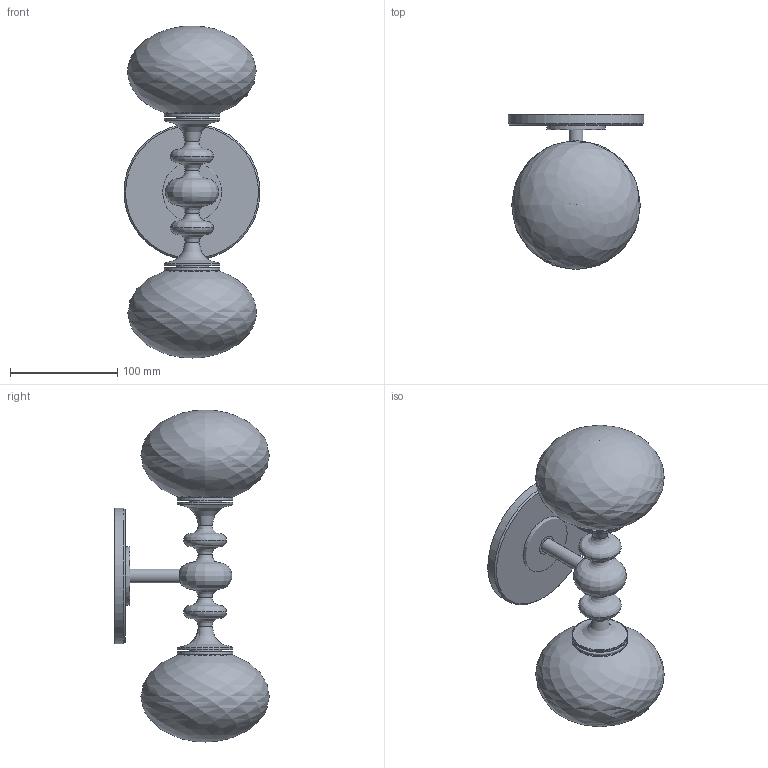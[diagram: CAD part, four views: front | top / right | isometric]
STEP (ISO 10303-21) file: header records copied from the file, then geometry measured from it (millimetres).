
FILE_DESCRIPTION(/* description */ (''),/* implementation_level */ '2;1');
FILE_NAME(/* name */ 'SkLO_AvroKO_PerlaSconce_Profile1_3D_LT626',/* time_stamp */ '2025-08-04T14:18:49+02:00',/* author */ (''),/* organization */ (''),/* preprocessor_version */ 'ST-DEVELOPER v16.5',/* originating_system */ 'Rhino 7.38',/* authorisation */ '');
FILE_SCHEMA (('CONFIG_CONTROL_DESIGN'));
Length unit declared in the file: millimetre
Products named in the file (1): Document
Bounding box: 126.98 x 144.55 x 310.01 mm (x, y, z)
Volume: 429145 mm3; surface area: 235197.8 mm2
Topology: 16 solids, 20 shells, 197 faces, 488 edges, 266 vertices
Faces by surface type: bspline 98, cylinder 53, plane 46
Full cylindrical faces by diameter (mm): 9 x1, 9.185 x8, 13 x1, 13.2 x1, 18.275 x1, 20 x2, 21 x2, 24 x2, 27.5 x2, 29.988 x2, 30.8 x4, 36 x2, 46 x2, 52 x2, 124 x1, 127 x1
Entity records: 42803 total; most frequent: CARTESIAN_POINT 40105, ORIENTED_EDGE 796, EDGE_CURVE 408, VERTEX_POINT 266, EDGE_LOOP 224, ADVANCED_FACE 197, FACE_OUTER_BOUND 197, B_SPLINE_CURVE_WITH_KNOTS 151
